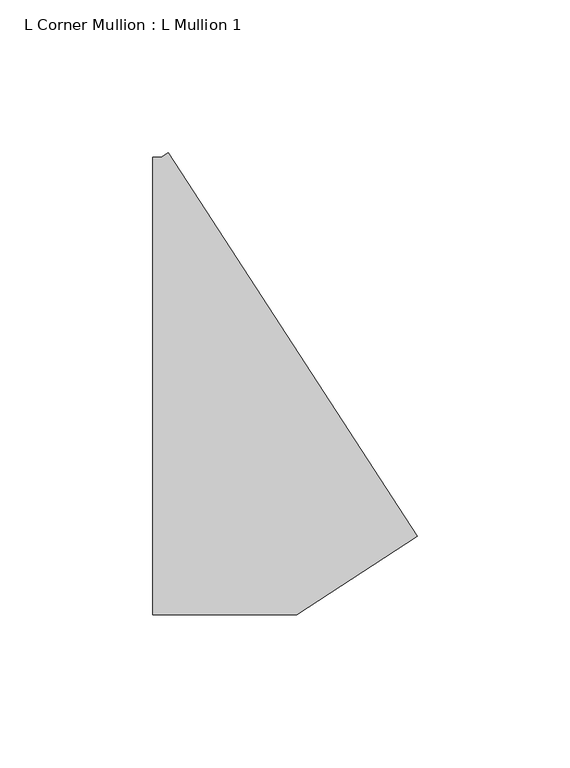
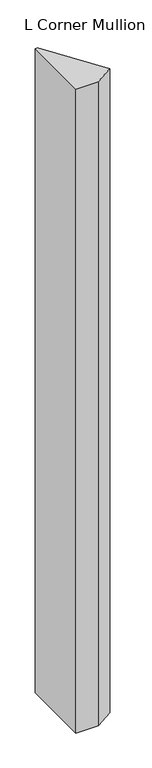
"""IFC4 building model written with IfcOpenShell, lengths in millimetres: member geometry, L Corner Mullion : L Mullion 1."""

from ifc_helpers import new_model, si_unit, frame, origin, place, context, project, spatial, polyline, outline, extrude, source, transform, mapped, element, save


def l_corner_mullion_l_mullion_1_0976fb96(model_context):
    return source(origin(), model_context, "Body", "SweptSolid", [
        extrude(outline(polyline([(61.8146918, -49.2843167), (22.2160121, -75.0), (-25.0, -75.0), (-25.0, 75.0), (-22.2160121, 75.0), (-19.8811634, 76.5162685), (61.8146918, -49.2843167)])), frame((0.0, 0.0, -1450.0), z_axis=(0.0, 0.0, 1.0), x_axis=(1.0, 0.0, 0.0)), (0.0, 0.0, 1.0), 1450.0),
    ])


if __name__ == "__main__":
    model = new_model("IFC4")
    model_context = context("Model", 3, world=origin())
    ifc_project = project(units=[si_unit("LENGTHUNIT", "METRE", prefix="MILLI")], contexts=[model_context])
    site = spatial("IfcSite", under=ifc_project)
    building = spatial("IfcBuilding", under=site)
    placement = place(None, origin())
    l_corner_mullion_l_mullion_1_shape = l_corner_mullion_l_mullion_1_0976fb96(model_context)
    element("IfcMember", 1, ObjectType="L Corner Mullion : L Mullion 1", at=placement, inside=building, context=model_context, shape_type="MappedRepresentation", body=[
        mapped(l_corner_mullion_l_mullion_1_shape, transform((0.0, 0.0, 0.0), x_axis=(1.0, 0.0, 0.0), y_axis=(0.0, 1.0, 0.0), z_axis=(0.0, 0.0, 1.0))),
    ])
    save(model, "model.ifc")
